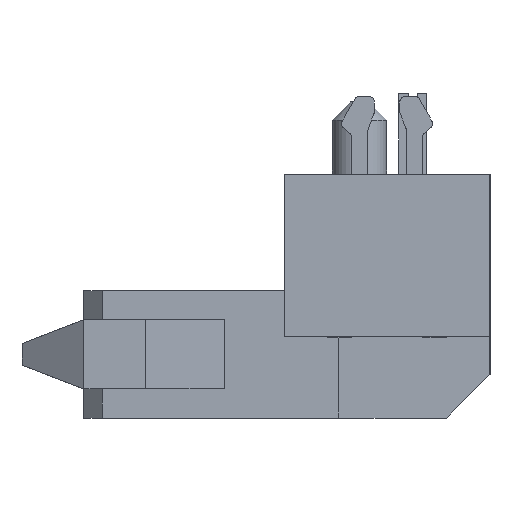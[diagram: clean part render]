
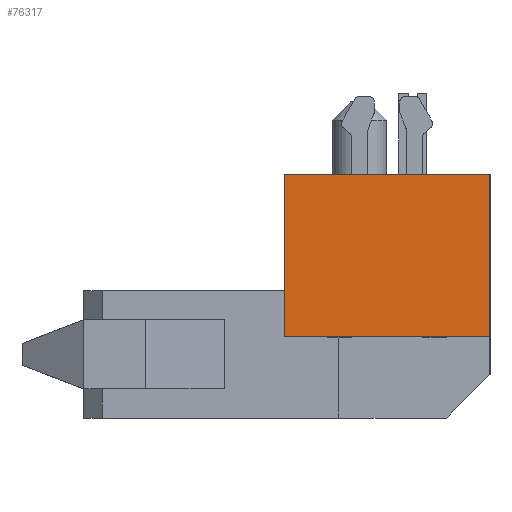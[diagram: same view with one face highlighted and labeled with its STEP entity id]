
A CAD part, left-side view. The second image highlights one B-rep face of the part: STEP entity #76317.
In plain terms, the highlighted planar face has unit normal (-1, 0, 0).
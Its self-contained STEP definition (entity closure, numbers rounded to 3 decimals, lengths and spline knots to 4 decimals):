
#27161=DIRECTION('',(0.,0.,1.));
#27162=VECTOR('',#27161,4.45);
#27163=CARTESIAN_POINT('',(1.3429,2.0688,-6.9074));
#27164=LINE('',#27163,#27162);
#27253=DIRECTION('',(0.,1.,0.));
#27254=VECTOR('',#27253,5.65);
#27255=CARTESIAN_POINT('',(1.3429,2.0688,-2.4574));
#27256=LINE('',#27255,#27254);
#27261=DIRECTION('',(0.,1.,0.));
#27262=VECTOR('',#27261,5.65);
#27263=CARTESIAN_POINT('',(1.3429,2.0688,-6.9074));
#27264=LINE('',#27263,#27262);
#27265=DIRECTION('',(0.,0.,1.));
#27266=VECTOR('',#27265,4.45);
#27267=CARTESIAN_POINT('',(1.3429,7.7188,-6.9074));
#27268=LINE('',#27267,#27266);
#36807=CARTESIAN_POINT('',(1.3429,2.0688,-6.9074));
#36808=VERTEX_POINT('',#36807);
#36809=CARTESIAN_POINT('',(1.3429,2.0688,-2.4574));
#36810=VERTEX_POINT('',#36809);
#36851=CARTESIAN_POINT('',(1.3429,7.7188,-2.4574));
#36852=VERTEX_POINT('',#36851);
#36853=CARTESIAN_POINT('',(1.3429,7.7188,-6.9074));
#36854=VERTEX_POINT('',#36853);
#76304=CARTESIAN_POINT('',(1.3429,4.8938,-4.6824));
#76305=DIRECTION('',(1.,0.,0.));
#76306=DIRECTION('',(0.,-1.,0.));
#76307=AXIS2_PLACEMENT_3D('',#76304,#76305,#76306);
#76308=PLANE('',#76307);
#76310=ORIENTED_EDGE('',*,*,#76309,.T.);
#76312=ORIENTED_EDGE('',*,*,#76311,.T.);
#76313=ORIENTED_EDGE('',*,*,#76297,.F.);
#76314=ORIENTED_EDGE('',*,*,#76216,.F.);
#76315=EDGE_LOOP('',(#76310,#76312,#76313,#76314));
#76316=FACE_OUTER_BOUND('',#76315,.F.);
#76317=ADVANCED_FACE('',(#76316),#76308,.F.);
#76216=EDGE_CURVE('',#36808,#36810,#27164,.T.);
#76297=EDGE_CURVE('',#36810,#36852,#27256,.T.);
#76309=EDGE_CURVE('',#36808,#36854,#27264,.T.);
#76311=EDGE_CURVE('',#36854,#36852,#27268,.T.);
